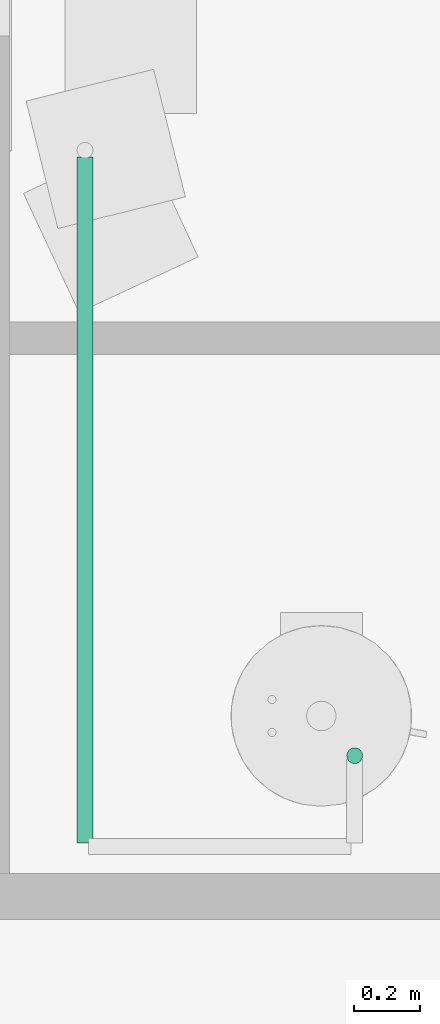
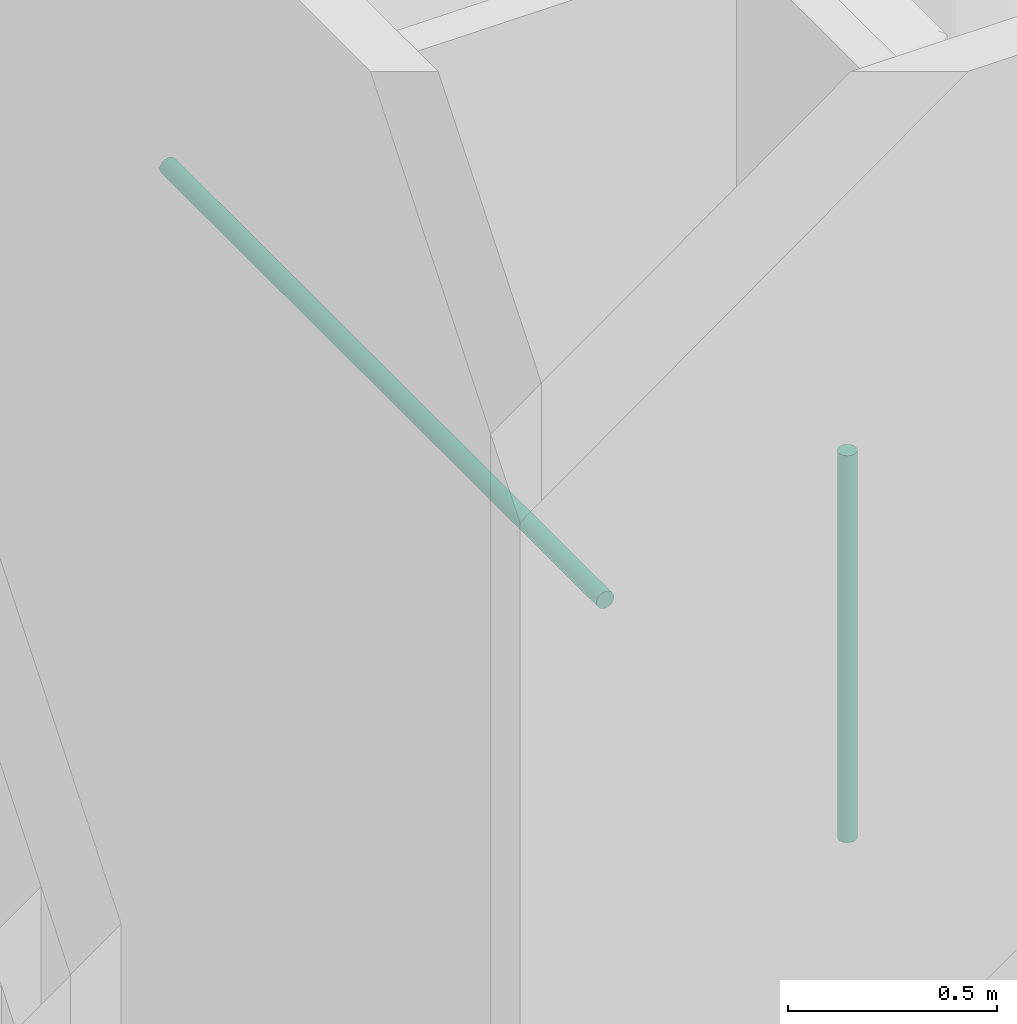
# One storey, part 35 of 72: 2 pipe segments.
"""IFC4 building model written with IfcOpenShell, lengths in centimetres."""

import ifcopenshell
import ifcopenshell.guid

model = None  # the IFC model being written
_history = None  # IfcOwnerHistory: only IFC2X3 demands one
_inside = {}  # id of a spatial element -> (the spatial element, [elements in it])
_under = {}  # id of a project, library or spatial element -> (it, [spatial elements below it])
_declared = {}  # id of a project -> (the project, [libraries it declares])
_typed = {}  # id of a type object -> (the type object, [elements of that type])
_made_of = {}  # id of a material, layer set ... -> (it, [elements and type objects made of it])


def new_model(schema):
    """Start an empty IFC model of exactly this schema.

    Asked for "IFC4X3", IfcOpenShell would pick the latest addendum, in which some entities
    have other attributes; the version numbers below select the first issue.
    IFC2X3 requires an IfcOwnerHistory on every rooted entity: one is made here for all.
    """
    global model, _history
    if schema == "IFC4X3":
        model = ifcopenshell.file(schema_version=(4, 3, 0, 0))
    else:
        model = ifcopenshell.file(schema=schema)
    _inside.clear()
    _under.clear()
    _declared.clear()
    _typed.clear()
    _made_of.clear()
    _history = None
    if model.schema == "IFC2X3":
        org = make("IfcOrganization", Name="unknown")
        user = make(
            "IfcPersonAndOrganization",
            ThePerson=make("IfcPerson", FamilyName="unknown"),
            TheOrganization=org,
        )
        app = make(
            "IfcApplication",
            ApplicationDeveloper=org,
            Version="unknown",
            ApplicationFullName="unknown",
            ApplicationIdentifier="unknown",
        )
        _history = make(
            "IfcOwnerHistory",
            OwningUser=user,
            OwningApplication=app,
            ChangeAction="ADDED",
            CreationDate=0,
        )
    return model


def make(cls, **values):
    """One entity of the class cls with the attributes given. An attribute that is None is left unset."""
    return model.create_entity(
        cls, **{name: value for name, value in values.items() if value is not None}
    )


def entity(cls, *values):
    """Any entity or typed value of the class cls, its attributes in the order of the schema. None: left unset."""
    e = model.create_entity(cls)
    for i, value in enumerate(values):
        if value is not None:
            e[i] = value
    return e


def rooted(cls, **values):
    """An entity with a GlobalId (a new one), such as an element, a storey or a relation."""
    return make(cls, GlobalId=ifcopenshell.guid.new(), OwnerHistory=_history, **values)


def si_unit(unit_type, name, prefix=None):
    """IfcSIUnit, for example si_unit("LENGTHUNIT", "METRE", prefix="MILLI")."""
    return make("IfcSIUnit", UnitType=unit_type, Prefix=prefix, Name=name)


def converted_unit(unit_type, name, factor, base, dimensions=None, offset=None):
    """IfcConversionBasedUnit, such as the inch: factor (a typed value) times the base unit."""
    return make(
        "IfcConversionBasedUnit"
        if offset is None
        else "IfcConversionBasedUnitWithOffset",
        ConversionOffset=offset,
        Dimensions=None
        if dimensions is None
        else entity("IfcDimensionalExponents", *dimensions),
        UnitType=unit_type,
        Name=name,
        ConversionFactor=make(
            "IfcMeasureWithUnit", ValueComponent=factor, UnitComponent=base
        ),
    )


def derived_unit(unit_type, elements):
    """IfcDerivedUnit: a product of units, each with its exponent."""
    return make(
        "IfcDerivedUnit",
        Elements=[
            make("IfcDerivedUnitElement", Unit=unit, Exponent=power)
            for unit, power in elements
        ],
        UnitType=unit_type,
    )


def assignment(units):
    """IfcUnitAssignment: the units of a project."""
    return None if units is None else make("IfcUnitAssignment", Units=units)


def point(xyz):
    """IfcCartesianPoint."""
    return None if xyz is None else make("IfcCartesianPoint", Coordinates=xyz)


def direction(xyz):
    """IfcDirection."""
    return None if xyz is None else make("IfcDirection", DirectionRatios=xyz)


def frame(location, z_axis=None, x_axis=None):
    """IfcAxis2Placement3D, a coordinate frame: its origin and axes. An axis left out is left unset."""
    return make(
        "IfcAxis2Placement3D",
        Location=point(location),
        Axis=direction(z_axis),
        RefDirection=direction(x_axis),
    )


def origin():
    """The frame at (0, 0, 0) with its axes left unset."""
    return frame((0.0, 0.0, 0.0))


def place(relative_to, where):
    """IfcLocalPlacement: puts the frame where relative to a parent placement (None: the world)."""
    return make(
        "IfcLocalPlacement", PlacementRelTo=relative_to, RelativePlacement=where
    )


def context(
    kind, dimensions, precision=None, world=None, true_north=None, identifier=None
):
    """IfcGeometricRepresentationContext, for example the 3D "Model" context."""
    return make(
        "IfcGeometricRepresentationContext",
        ContextIdentifier=identifier,
        ContextType=kind,
        CoordinateSpaceDimension=dimensions,
        Precision=precision,
        WorldCoordinateSystem=world,
        TrueNorth=true_north,
    )


def subcontext(parent, identifier, kind, view, scale=None):
    """IfcGeometricRepresentationSubContext, for example "Body" below "Model"."""
    return make(
        "IfcGeometricRepresentationSubContext",
        ContextIdentifier=identifier,
        ContextType=kind,
        ParentContext=parent,
        TargetScale=scale,
        TargetView=view,
    )


def project(units=None, contexts=None):
    """IfcProject with its units and contexts."""
    return rooted(
        "IfcProject",
        Name="project",
        RepresentationContexts=contexts,
        UnitsInContext=assignment(units),
    )


def spatial(cls, under=None, at=None, **own):
    """A site, building, storey or space (cls), placed at a placement, below another one or the project."""
    s = rooted(cls, ObjectPlacement=at, **own)
    if under is not None:
        _under.setdefault(under.id(), (under, []))[1].append(s)
    return s


def point_list(points):
    """IfcCartesianPointList2D or 3D."""
    cls = (
        "IfcCartesianPointList2D" if len(points[0]) == 2 else "IfcCartesianPointList3D"
    )
    return make(cls, CoordList=points)


def arc(*indices):
    """IfcArcIndex: an arc through three numbered points of an indexed curve."""
    return model.create_entity("IfcArcIndex", indices)


def indexed_curve(points, segments=None, self_intersect=None):
    """IfcIndexedPolyCurve: lines and arcs through numbered points (the first is 1)."""
    return make(
        "IfcIndexedPolyCurve",
        Points=point_list(points),
        Segments=segments,
        SelfIntersect=self_intersect,
    )


def outline(outer, holes=None, kind="AREA"):
    """IfcArbitraryClosedProfileDef: a profile drawn as a closed curve; with holes, ...WithVoids."""
    if holes is None:
        return make("IfcArbitraryClosedProfileDef", ProfileType=kind, OuterCurve=outer)
    return make(
        "IfcArbitraryProfileDefWithVoids",
        ProfileType=kind,
        OuterCurve=outer,
        InnerCurves=holes,
    )


def extrude(swept, where, along, depth):
    """IfcExtrudedAreaSolid: the profile swept, set in the frame where, extruded along a direction by depth."""
    return make(
        "IfcExtrudedAreaSolid",
        SweptArea=swept,
        Position=where,
        ExtrudedDirection=direction(along),
        Depth=depth,
    )


def shape(context_of_items, identifier, shape_type, items):
    """IfcShapeRepresentation: the items that make up one representation, for example the "Body"."""
    return make(
        "IfcShapeRepresentation",
        ContextOfItems=context_of_items,
        RepresentationIdentifier=identifier,
        RepresentationType=shape_type,
        Items=items,
    )


def made_of(thing, what):
    """Note that an element or type object is made of a material, layer set ...; save() writes the relation."""
    if what is not None:
        _made_of.setdefault(what.id(), (what, []))[1].append(thing)
    return thing


def type_object(cls, material=None, **own):
    """A type object (cls), such as IfcWallType, which elements share."""
    return made_of(rooted(cls, **own), material)


def element(
    cls,
    number,
    at=None,
    inside=None,
    cuts=None,
    type_object=None,
    material=None,
    context=None,
    identifier="Body",
    shape_type=None,
    held_by="IfcProductDefinitionShape",
    body=None,
    shapes=None,
    **own,
):
    """One element of the class cls, such as IfcWall. Its Tag is "e" and its number.

    at: its placement. inside: the storey or other place that contains it. cuts: it is an
    opening in that element (IfcRelVoidsElement). A single representation is given by context,
    identifier, shape_type and body (its items); several are given by shapes. held_by: the class
    of the entity that holds the representations. save() writes the other relations.
    """
    e = rooted(cls, Tag="e%d" % number, ObjectPlacement=at, **own)
    if body is not None:
        shapes = [shape(context, identifier, shape_type, body)]
    if shapes is not None:
        e.Representation = make(held_by, Representations=shapes)
    if inside is not None:
        _inside.setdefault(inside.id(), (inside, []))[1].append(e)
    if cuts is not None:
        rooted(
            "IfcRelVoidsElement", RelatingBuildingElement=cuts, RelatedOpeningElement=e
        )
    if type_object is not None:
        _typed.setdefault(type_object.id(), (type_object, []))[1].append(e)
    return made_of(e, material)


def aggregate(whole, parts):
    """IfcRelAggregates: a whole, such as a stair, and the parts it consists of."""
    return rooted("IfcRelAggregates", RelatingObject=whole, RelatedObjects=parts)


def save(model, path):
    """Write the relations noted so far, then the file.

    IfcRelAggregates (storeys below a building ...), IfcRelContainedInSpatialStructure (elements
    in a storey), IfcRelDefinesByType, IfcRelAssociatesMaterial and IfcRelDeclares: one each for
    every whole, place, type object, material and project.
    """
    for whole, parts in _under.values():
        aggregate(whole, parts)
    for where, things in _inside.values():
        rooted(
            "IfcRelContainedInSpatialStructure",
            RelatedElements=things,
            RelatingStructure=where,
        )
    for kind, things in _typed.values():
        rooted("IfcRelDefinesByType", RelatedObjects=things, RelatingType=kind)
    for what, things in _made_of.values():
        rooted("IfcRelAssociatesMaterial", RelatedObjects=things, RelatingMaterial=what)
    for by, libraries in _declared.values():
        rooted("IfcRelDeclares", RelatingContext=by, RelatedDefinitions=libraries)
    model.write(path)


model = new_model("IFC4")

# Units and contexts
model_context = context("Model", 3, precision=0.001, world=origin(), true_north=direction((6.123233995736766e-17, 1.0)))
body_context = subcontext(model_context, "Body", "Model", "MODEL_VIEW")
ifc_project = project(units=[si_unit("LENGTHUNIT", "METRE", prefix="CENTI"), si_unit("AREAUNIT", "SQUARE_METRE"), si_unit("VOLUMEUNIT", "CUBIC_METRE"), derived_unit("THERMALTRANSMITTANCEUNIT", [(si_unit("MASSUNIT", "GRAM", prefix="KILO"), 1), (si_unit("THERMODYNAMICTEMPERATUREUNIT", "KELVIN"), -1), (si_unit("TIMEUNIT", "SECOND"), -3)]), converted_unit("PLANEANGLEUNIT", "DEGREE", entity("IfcPlaneAngleMeasure", 0.017453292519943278), si_unit("PLANEANGLEUNIT", "RADIAN"), dimensions=[0, 0, 0, 0, 0, 0, 0]), derived_unit("MASSDENSITYUNIT", [(si_unit("MASSUNIT", "GRAM", prefix="KILO"), 1), (si_unit("LENGTHUNIT", "METRE"), -3)]), derived_unit("VAPORPERMEABILITYUNIT", [(si_unit("LENGTHUNIT", "METRE"), -1), (si_unit("TIMEUNIT", "SECOND"), 1)]), derived_unit("USERDEFINED", [(si_unit("MASSUNIT", "GRAM", prefix="KILO"), 1), (si_unit("TIMEUNIT", "SECOND"), -3), (si_unit("LENGTHUNIT", "METRE"), 3), (si_unit("ELECTRICCURRENTUNIT", "AMPERE"), -2)]), derived_unit("SPECIFICHEATCAPACITYUNIT", [(si_unit("THERMODYNAMICTEMPERATUREUNIT", "KELVIN"), -1), (si_unit("LENGTHUNIT", "METRE"), 2), (si_unit("TIMEUNIT", "SECOND"), -2)]), derived_unit("THERMALCONDUCTANCEUNIT", [(si_unit("MASSUNIT", "GRAM", prefix="KILO"), 1), (si_unit("THERMODYNAMICTEMPERATUREUNIT", "KELVIN"), -1), (si_unit("TIMEUNIT", "SECOND"), -3), (si_unit("LENGTHUNIT", "METRE"), 1)]), si_unit("PRESSUREUNIT", "PASCAL"), derived_unit("MODULUSOFELASTICITYUNIT", [(si_unit("MASSUNIT", "GRAM", prefix="KILO"), 1), (si_unit("LENGTHUNIT", "METRE"), -1), (si_unit("TIMEUNIT", "SECOND"), -2)]), derived_unit("THERMALEXPANSIONCOEFFICIENTUNIT", [(si_unit("THERMODYNAMICTEMPERATUREUNIT", "KELVIN"), -1)])], contexts=[model_context])

# Site, building, storey
site_placement = place(None, origin())
site = spatial("IfcSite", under=ifc_project, at=site_placement, Name="Default", CompositionType="ELEMENT")
building_placement = place(site_placement, origin())
building = spatial("IfcBuilding", under=site, at=building_placement, Name="IDS Escape Game Building", CompositionType="ELEMENT")
storey_placement = place(building_placement, frame((0.0, 0.0, 800.0)))
storey = spatial("IfcBuildingStorey", under=building, at=storey_placement, Name="02_Second Floor", CompositionType="ELEMENT", Elevation=800.0)

# Pipe segments
pipe_segment_type = type_object("IfcPipeSegmentType", Name="Pipe Types:Piping Aluminum", PredefinedType="NOTDEFINED")
pipe_segment_1_placement = place(storey_placement, origin())
element("IfcPipeSegment", 1, at=pipe_segment_1_placement, inside=storey, type_object=pipe_segment_type, Name="Pipe Types:Piping Aluminum", ObjectType="Pipe Types:Piping Aluminum", PredefinedType="NOTDEFINED", context=body_context, shape_type="SweptSolid", body=[
    extrude(outline(indexed_curve([(2.412999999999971, 0.0), (1.7062486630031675, 1.7062486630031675), (0.0, 2.412999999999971), (-1.7062486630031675, 1.7062486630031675), (-2.412999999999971, 0.0), (-1.7062486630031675, -1.7062486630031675), (0.0, -2.412999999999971), (1.7062486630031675, -1.7062486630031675)], segments=[arc(1, 2, 3), arc(3, 4, 5), arc(5, 6, 7), arc(7, 8, 1)], self_intersect=False)), frame((3064.1500000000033, 2600.900000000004, 128.0), z_axis=(0.0, 0.0, 1.0), x_axis=(-1.0, 0.0, 0.0)), (0.0, 0.0, 1.0), 112.90000000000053),
])
pipe_segment_2_placement = place(storey_placement, origin())
element("IfcPipeSegment", 2, at=pipe_segment_2_placement, inside=storey, type_object=pipe_segment_type, Name="Pipe Types:Piping Aluminum", ObjectType="Pipe Types:Piping Aluminum", PredefinedType="NOTDEFINED", context=body_context, shape_type="SweptSolid", body=[
    extrude(outline(indexed_curve([(2.412999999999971, 0.0), (1.7062486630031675, 1.7062486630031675), (0.0, 2.412999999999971), (-1.7062486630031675, 1.7062486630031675), (-2.412999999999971, 0.0), (-1.7062486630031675, -1.7062486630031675), (0.0, -2.412999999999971), (1.7062486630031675, -1.7062486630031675)], segments=[arc(1, 2, 3), arc(3, 4, 5), arc(5, 6, 7), arc(7, 8, 1)], self_intersect=False)), frame((2982.046716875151, 2574.364827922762, 242.0), z_axis=(0.0, 1.0, 0.0), x_axis=(1.0, 0.0, 0.0)), (0.0, 0.0, 1.0), 208.80000000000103),
])

save(model, "model.ifc")
